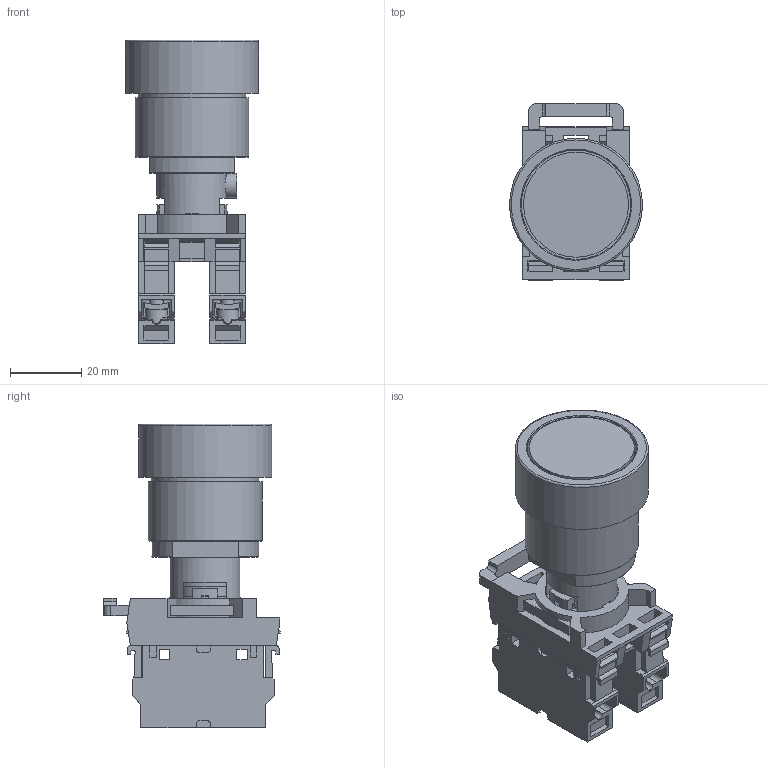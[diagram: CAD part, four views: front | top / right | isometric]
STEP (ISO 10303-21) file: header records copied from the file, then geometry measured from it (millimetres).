
FILE_DESCRIPTION((''),'2;1');
FILE_NAME('\\192.168.5.25\cortem_klient\INVENTOR БАЗА МОДЕЛЕЙ\Актуальная база моделей для отдела продаж\Элементы управления и индикации\КГВ01\КГВ01Ж11.stp','2019-04-09T16:09:30',('A.S.Kozlov'),(''),'Autodesk Inventor 2012','Autodesk Inventor 2012','');
FILE_SCHEMA(('CONFIG_CONTROL_DESIGN'));
Length unit declared in the file: millimetre
Products named in the file (1): КГВ01Ж11_Внешний контур_1
Bounding box: 37.4 x 49.65 x 85.4 mm (x, y, z)
Surface area: 29493.1 mm2 (no closed solid volume)
Topology: 0 solids, 37 shells, 473 faces, 1954 edges, 1448 vertices
Faces by surface type: plane 388, cylinder 63, cone 21, torus 1
Full cylindrical faces by diameter (mm): 3.85 x1, 4 x4, 6.2 x4, 6.5 x4, 7 x1, 7.95 x1, 10.376 x1, 12 x1, 14.7 x1, 15.7 x2, 15.8 x1, 19.8 x1, 29.5 x1, 30.2 x1, 30.75 x1, 32 x1, 37.4 x1
Entity records: 20803 total; most frequent: CARTESIAN_POINT 4537, ORIENTED_EDGE 3027, DIRECTION 3015, EDGE_CURVE 1899, VECTOR 1441, LINE 1441, VERTEX_POINT 1426, AXIS2_PLACEMENT_3D 787
